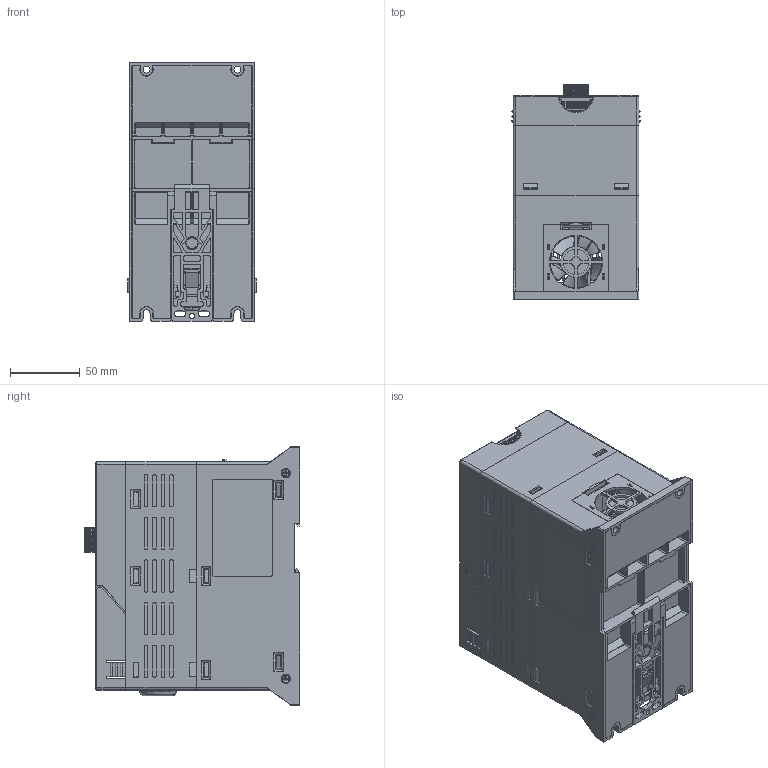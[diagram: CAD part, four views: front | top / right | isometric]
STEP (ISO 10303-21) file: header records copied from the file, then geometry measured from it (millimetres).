
FILE_DESCRIPTION((''),'2;1');
FILE_NAME('0_75-2_2_G3_ASM','2022-07-21T',('Administrator'),(''),'PRO/ENGINEER BY PARAMETRIC TECHNOLOGY CORPORATION, 2009440','PRO/ENGINEER BY PARAMETRIC TECHNOLOGY CORPORATION, 2009440','');
FILE_SCHEMA(('AUTOMOTIVE_DESIGN_CC2 { 1 2 10303 214 -1 1 5 2 }'));
Products named in the file (30): PRT0001_3; PRT0002_3; PRT0003_3; PRT0004_1; 5G3DF3S005_ASM_10_ASM_ASM_ASM_A_ASM; PRT0005_3; PRT0006_3; 5G3BC3S002_ASM_4_ASM_ASM_ASM_AS_ASM; PRT0007_3; 5G3DF3S001_ASM_3_ASM_ASM_ASM_AS_ASM; PRT0008_3; PRT0009_3; 5G3BC1F001_ASM_50_ASM_ASM_ASM_A_ASM; PRT0011_1; PRT0012_1; PRT0013_1; FAN_40X40X20_3_ASM_ASM_ASM_ASM__ASM; PRT0014_1; PRT0015_1; PRT0016_1; PRT0017_1; KEY_PI500__ASM_4_ASM_ASM_ASM_AS_ASM; PRT0018_1; BT_BOM_1R5KW_ASM_4_ASM_ASM_ASM__ASM; PRT0019_2; 1R5KW_ASM_50_ASM_ASM_ASM_ASM_AS_ASM; 5G3BC13R001_17; 1R5KW_ASM_ASM_ASM; 0_75-2_2_G3_ASM_ASM; 0_75-2_2_G3_ASM
Assembly tree (32 placements, depth 7):
  0_75-2_2_G3_ASM
    0_75-2_2_G3_ASM_ASM
      1R5KW_ASM_ASM_ASM
        1R5KW_ASM_50_ASM_ASM_ASM_ASM_AS_ASM
          5G3BC1F001_ASM_50_ASM_ASM_ASM_A_ASM
            PRT0001_3
            PRT0002_3
            5G3DF3S005_ASM_10_ASM_ASM_ASM_A_ASM
              PRT0003_3
              PRT0004_1
            PRT0005_3
            5G3BC3S002_ASM_4_ASM_ASM_ASM_AS_ASM
              PRT0006_3
            5G3DF3S001_ASM_3_ASM_ASM_ASM_AS_ASM
              PRT0007_3
            PRT0008_3
            PRT0009_3
          FAN_40X40X20_3_ASM_ASM_ASM_ASM__ASM
            PRT0011_1
            PRT0012_1
            PRT0013_1
          KEY_PI500__ASM_4_ASM_ASM_ASM_AS_ASM
            PRT0014_1
            PRT0015_1
            PRT0016_1
            PRT0017_1
          BT_BOM_1R5KW_ASM_4_ASM_ASM_ASM__ASM
            PRT0018_1  x4
          PRT0019_2
        5G3BC13R001_17
Bounding box: 91.5 x 154 x 185 mm (x, y, z)
Volume: 358780.1 mm3; surface area: 380386.9 mm2
Topology: 20 solids, 20 shells, 7776 faces, 39041 edges, 35064 vertices
Faces by surface type: plane 6319, cylinder 1082, torus 114, extrusion 96, bspline 71, cone 48, sphere 44, revolution 2
Entity records: 425130 total; most frequent: CARTESIAN_POINT 90754, DIRECTION 52987, ORIENTED_EDGE 43894, VECTOR 32081, LINE 31985, EDGE_CURVE 21947, PRESENTATION_STYLE_ASSIGNMENT 18415, STYLED_ITEM 18415
